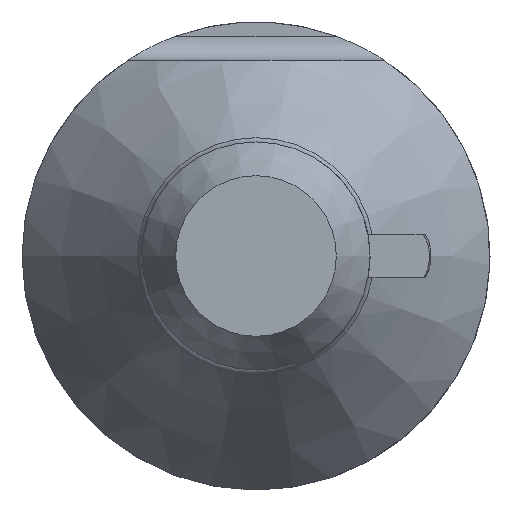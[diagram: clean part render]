
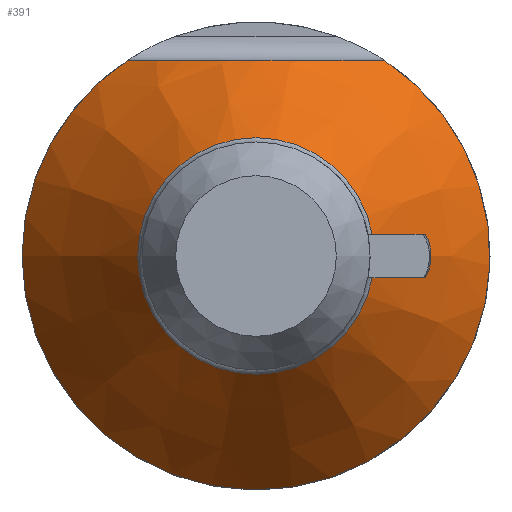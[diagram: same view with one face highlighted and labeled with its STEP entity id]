
A CAD part, front view. The second image highlights one B-rep face of the part: STEP entity #391.
In plain terms, the highlighted conical face has half-angle 35 degrees and reference radius 3.011 mm.
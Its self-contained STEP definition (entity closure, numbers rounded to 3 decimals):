
#14=CONICAL_SURFACE('',#448,3.011,0.611);
#17=(
BOUNDED_CURVE()
B_SPLINE_CURVE(2,(#699,#700,#701),.UNSPECIFIED.,.F.,.F.)
B_SPLINE_CURVE_WITH_KNOTS((3,3),(0.,0.475),.UNSPECIFIED.)
CURVE()
GEOMETRIC_REPRESENTATION_ITEM()
RATIONAL_B_SPLINE_CURVE((1.,1.194,1.))
REPRESENTATION_ITEM('')
);
#46=FACE_OUTER_BOUND('',#69,.T.);
#69=EDGE_LOOP('',(#298,#299,#300,#301,#302,#303,#304));
#101=LINE('',#737,#124);
#124=VECTOR('',#543,3.011);
#140=CIRCLE('',#449,2.022);
#141=CIRCLE('',#450,4.);
#142=CIRCLE('',#451,4.);
#143=CIRCLE('',#452,2.022);
#172=VERTEX_POINT('',#693);
#174=VERTEX_POINT('',#697);
#177=VERTEX_POINT('',#733);
#178=VERTEX_POINT('',#734);
#179=VERTEX_POINT('',#736);
#218=EDGE_CURVE('',#172,#174,#17,.T.);
#223=EDGE_CURVE('',#177,#178,#140,.T.);
#224=EDGE_CURVE('',#177,#179,#101,.T.);
#225=EDGE_CURVE('',#179,#172,#141,.T.);
#226=EDGE_CURVE('',#174,#179,#142,.T.);
#227=EDGE_CURVE('',#178,#177,#143,.T.);
#298=ORIENTED_EDGE('',*,*,#223,.F.);
#299=ORIENTED_EDGE('',*,*,#224,.T.);
#300=ORIENTED_EDGE('',*,*,#225,.T.);
#301=ORIENTED_EDGE('',*,*,#218,.T.);
#302=ORIENTED_EDGE('',*,*,#226,.T.);
#303=ORIENTED_EDGE('',*,*,#224,.F.);
#304=ORIENTED_EDGE('',*,*,#227,.F.);
#391=ADVANCED_FACE('',(#46),#14,.T.);
#448=AXIS2_PLACEMENT_3D('',#732,#539,#540);
#449=AXIS2_PLACEMENT_3D('',#735,#541,#542);
#450=AXIS2_PLACEMENT_3D('',#738,#544,#545);
#451=AXIS2_PLACEMENT_3D('',#739,#546,#547);
#452=AXIS2_PLACEMENT_3D('',#740,#548,#549);
#539=DIRECTION('center_axis',(0.,1.,0.));
#540=DIRECTION('ref_axis',(1.,0.,0.));
#541=DIRECTION('center_axis',(0.,-1.,0.));
#542=DIRECTION('ref_axis',(1.,0.,0.));
#543=DIRECTION('',(-0.574,0.819,0.));
#544=DIRECTION('center_axis',(0.,-1.,0.));
#545=DIRECTION('ref_axis',(1.,0.,0.));
#546=DIRECTION('center_axis',(0.,-1.,0.));
#547=DIRECTION('ref_axis',(1.,0.,0.));
#548=DIRECTION('center_axis',(0.,-1.,0.));
#549=DIRECTION('ref_axis',(1.,0.,0.));
#693=CARTESIAN_POINT('',(2.186,32.054,3.35));
#697=CARTESIAN_POINT('',(-2.186,32.054,3.35));
#699=CARTESIAN_POINT('Ctrl Pts',(2.186,32.054,3.35));
#700=CARTESIAN_POINT('Ctrl Pts',(0.,30.348,3.35));
#701=CARTESIAN_POINT('Ctrl Pts',(-2.186,32.054,3.35));
#732=CARTESIAN_POINT('Origin',(0.,30.642,0.));
#733=CARTESIAN_POINT('',(-2.022,29.229,0.));
#734=CARTESIAN_POINT('',(0.,29.229,2.022));
#735=CARTESIAN_POINT('Origin',(0.,29.229,0.));
#736=CARTESIAN_POINT('',(-4.,32.054,0.));
#737=CARTESIAN_POINT('',(-3.011,30.642,0.));
#738=CARTESIAN_POINT('Origin',(0.,32.054,0.));
#739=CARTESIAN_POINT('Origin',(0.,32.054,0.));
#740=CARTESIAN_POINT('Origin',(0.,29.229,0.));
